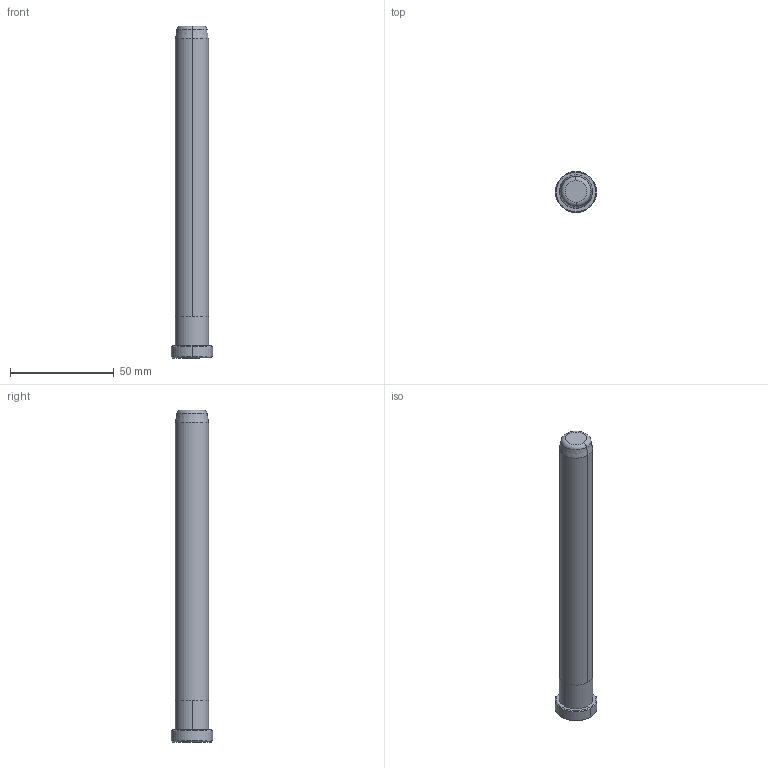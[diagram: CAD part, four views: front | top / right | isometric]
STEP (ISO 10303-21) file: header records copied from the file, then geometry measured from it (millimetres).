
FILE_DESCRIPTION((''),'2;1');
FILE_NAME('B80816160','2018-01-06T',('MANU'),(''),'PRO/ENGINEER BY PARAMETRIC TECHNOLOGY CORPORATION, 2012130','PRO/ENGINEER BY PARAMETRIC TECHNOLOGY CORPORATION, 2012130','');
FILE_SCHEMA(('CONFIG_CONTROL_DESIGN'));
Length unit declared in the file: millimetre
Products named in the file (1): B80816160
Bounding box: 20 x 20 x 160 mm (x, y, z)
Volume: 32664.1 mm3; surface area: 8618.4 mm2
Topology: 1 solids, 1 shells, 18 faces, 34 edges, 20 vertices
Faces by surface type: cone 6, cylinder 6, plane 4, torus 2
Entity records: 494 total; most frequent: DIRECTION 92, CARTESIAN_POINT 72, ORIENTED_EDGE 68, AXIS2_PLACEMENT_3D 40, EDGE_CURVE 34, CIRCLE 22, VERTEX_POINT 20, EDGE_LOOP 20
